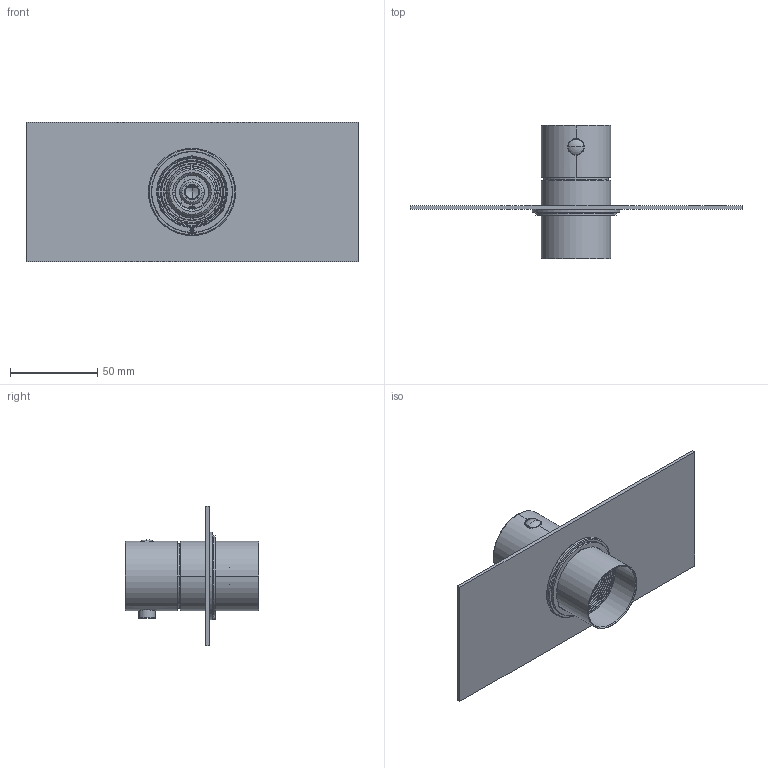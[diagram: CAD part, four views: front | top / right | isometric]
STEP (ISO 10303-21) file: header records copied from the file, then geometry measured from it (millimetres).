
FILE_DESCRIPTION((''),'2;1');
FILE_NAME('3D_SW0001','2024-03-27T14:49:28',('volponeff'),(''),'CREO PARAMETRIC BY PTC INC, 2022014','CREO PARAMETRIC BY PTC INC, 2022014','');
FILE_SCHEMA(('CONFIG_CONTROL_DESIGN'));
Products named in the file (1): 3D_SW0001
Bounding box: 190 x 76.6 x 80 mm (x, y, z)
Volume: 65049.2 mm3; surface area: 61315.5 mm2
Topology: 4 solids, 4 shells, 1292 faces, 3417 edges, 2212 vertices
Faces by surface type: plane 805, cylinder 255, torus 92, bspline 70, cone 58, sphere 12
Entity records: 65095 total; most frequent: CARTESIAN_POINT 33783, ORIENTED_EDGE 6818, DIRECTION 5951, EDGE_CURVE 3409, VECTOR 2273, LINE 2273, VERTEX_POINT 2210, AXIS2_PLACEMENT_3D 1839
